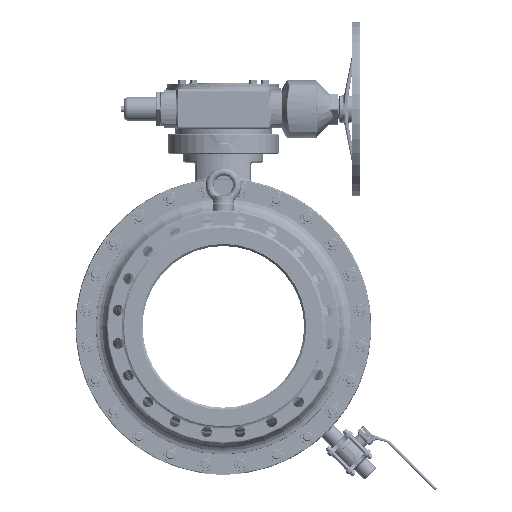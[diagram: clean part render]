
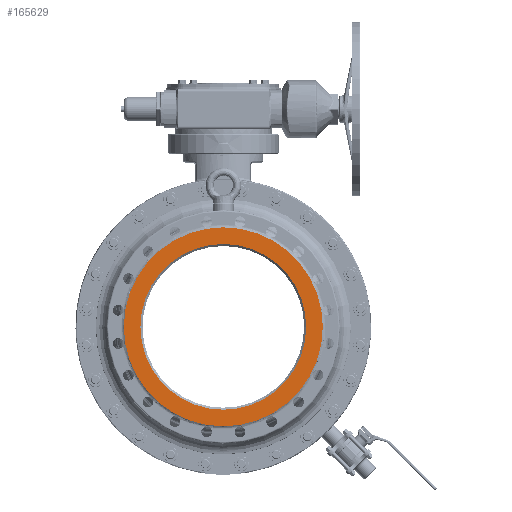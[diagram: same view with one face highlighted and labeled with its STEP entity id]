
A CAD part, left-side view. The second image highlights one B-rep face of the part: STEP entity #165629.
In plain terms, the highlighted planar face has unit normal (-1, 0, 0).
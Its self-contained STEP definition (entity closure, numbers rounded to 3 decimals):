
#37657=CARTESIAN_POINT('',(-533.5,0.,0.));
#37658=DIRECTION('',(-1.,0.,0.));
#37659=DIRECTION('',(0.,0.,-1.));
#37660=AXIS2_PLACEMENT_3D('',#37657,#37658,#37659);
#38668=CARTESIAN_POINT('',(-533.5,0.,0.));
#38669=DIRECTION('',(-1.,0.,0.));
#38670=DIRECTION('',(0.,0.,1.));
#38671=AXIS2_PLACEMENT_3D('',#38668,#38669,#38670);
#38757=CARTESIAN_POINT('',(-533.5,0.,0.));
#38758=DIRECTION('',(-1.,0.,0.));
#38759=DIRECTION('',(0.,0.,-1.));
#38760=AXIS2_PLACEMENT_3D('',#38757,#38758,#38759);
#38784=CARTESIAN_POINT('',(-533.5,0.,0.));
#38785=DIRECTION('',(1.,0.,0.));
#38786=DIRECTION('',(0.,0.,-1.));
#38787=AXIS2_PLACEMENT_3D('',#38784,#38785,#38786);
#104186=CARTESIAN_POINT('',(-533.5,0.,-300.));
#104187=CARTESIAN_POINT('',(-533.5,0.,300.));
#104188=VERTEX_POINT('',#104186);
#104189=VERTEX_POINT('',#104187);
#104190=CARTESIAN_POINT('',(-533.5,0.,360.));
#104191=CARTESIAN_POINT('',(-533.5,0.,-360.));
#104192=VERTEX_POINT('',#104190);
#104193=VERTEX_POINT('',#104191);
#165614=CARTESIAN_POINT('',(-533.5,0.,0.));
#165615=DIRECTION('',(-1.,0.,0.));
#165616=DIRECTION('',(0.,0.,-1.));
#165617=AXIS2_PLACEMENT_3D('',#165614,#165615,#165616);
#165618=PLANE('',#165617);
#165619=ORIENTED_EDGE('',*,*,#165327,.F.);
#165620=ORIENTED_EDGE('',*,*,#165144,.F.);
#165621=EDGE_LOOP('',(#165619,#165620));
#165622=FACE_OUTER_BOUND('',#165621,.F.);
#165624=ORIENTED_EDGE('',*,*,#165623,.T.);
#165626=ORIENTED_EDGE('',*,*,#165625,.F.);
#165627=EDGE_LOOP('',(#165624,#165626));
#165628=FACE_BOUND('',#165627,.F.);
#165629=ADVANCED_FACE('',(#165622,#165628),#165618,.T.);
#37661=CIRCLE('',#37660,360.);
#38672=CIRCLE('',#38671,360.);
#38761=CIRCLE('',#38760,300.);
#38788=CIRCLE('',#38787,300.);
#165144=EDGE_CURVE('',#104193,#104192,#37661,.T.);
#165327=EDGE_CURVE('',#104192,#104193,#38672,.T.);
#165623=EDGE_CURVE('',#104188,#104189,#38761,.T.);
#165625=EDGE_CURVE('',#104188,#104189,#38788,.T.);
